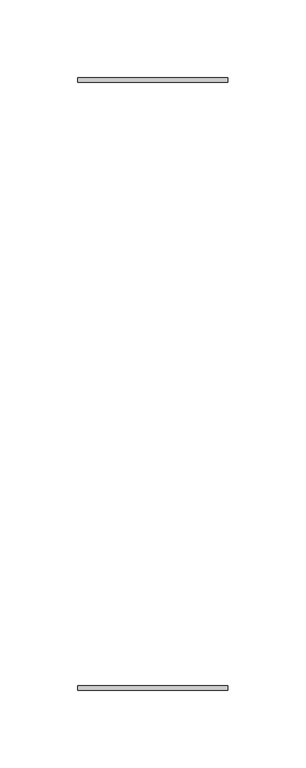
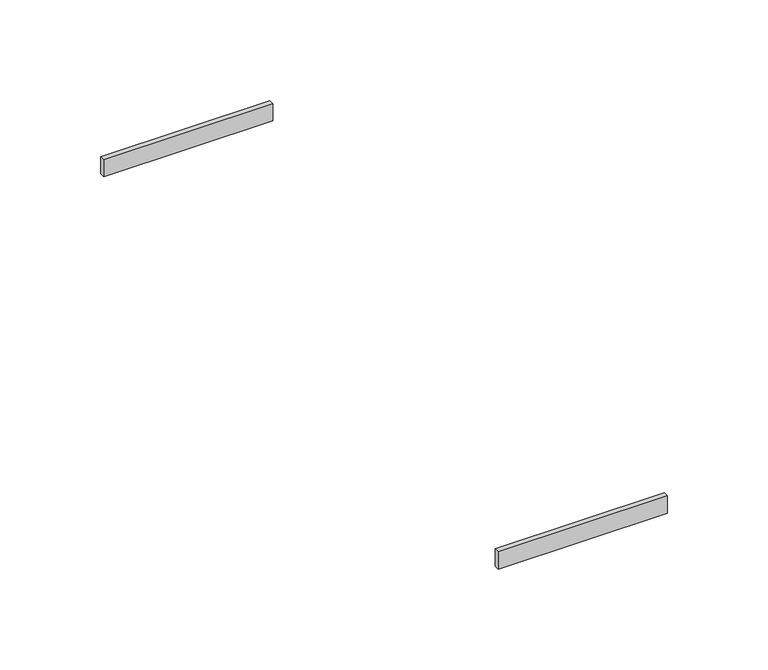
"""IFC4 building model written with IfcOpenShell, lengths in millimetres: cable carrier fitting geometry, Electrical_Installation_Hager_Trunking-Connector : Electrical_Installation_Hager_Trunking-Connector."""

from ifc_helpers import new_model, si_unit, frame, origin, place, context, project, spatial, polyline, outline, extrude, source, transform, mapped, element, save


def cable_carrier_fitting_eb91abf8(model_context):
    return source(origin(), model_context, "Body", "SweptSolid", [
        extrude(outline(polyline([(48.4677977, -194.5), (48.4677977, -197.5), (-48.4677977, -197.5), (-48.4677977, -194.5), (48.4677977, -194.5)])), frame((0.0, 0.0, -1.5), z_axis=(0.0, 0.0, 1.0), x_axis=(1.0, 0.0, 0.0)), (0.0, 0.0, 1.0), 10.5),
        extrude(outline(polyline([(48.4677977, 197.5), (48.4677977, 194.5), (-48.4677977, 194.5), (-48.4677977, 197.5), (48.4677977, 197.5)])), frame((0.0, 0.0, -1.5), z_axis=(0.0, 0.0, 1.0), x_axis=(1.0, 0.0, 0.0)), (0.0, 0.0, 1.0), 10.5),
    ])


if __name__ == "__main__":
    model = new_model("IFC4")
    model_context = context("Model", 3, world=origin())
    ifc_project = project(units=[si_unit("LENGTHUNIT", "METRE", prefix="MILLI")], contexts=[model_context])
    site = spatial("IfcSite", under=ifc_project)
    building = spatial("IfcBuilding", under=site)
    placement = place(None, origin())
    cable_carrier_fitting_shape = cable_carrier_fitting_eb91abf8(model_context)
    element("IfcCableCarrierFitting", 1, ObjectType="Electrical_Installation_Hager_Trunking-Connector : Electrical_Installation_Hager_Trunking-Connector", at=placement, inside=building, context=model_context, shape_type="MappedRepresentation", body=[
        mapped(cable_carrier_fitting_shape, transform((0.0, 0.0, 0.0), x_axis=(1.0, 0.0, 0.0), y_axis=(0.0, 1.0, 0.0), z_axis=(0.0, 0.0, 1.0))),
    ])
    save(model, "model.ifc")
